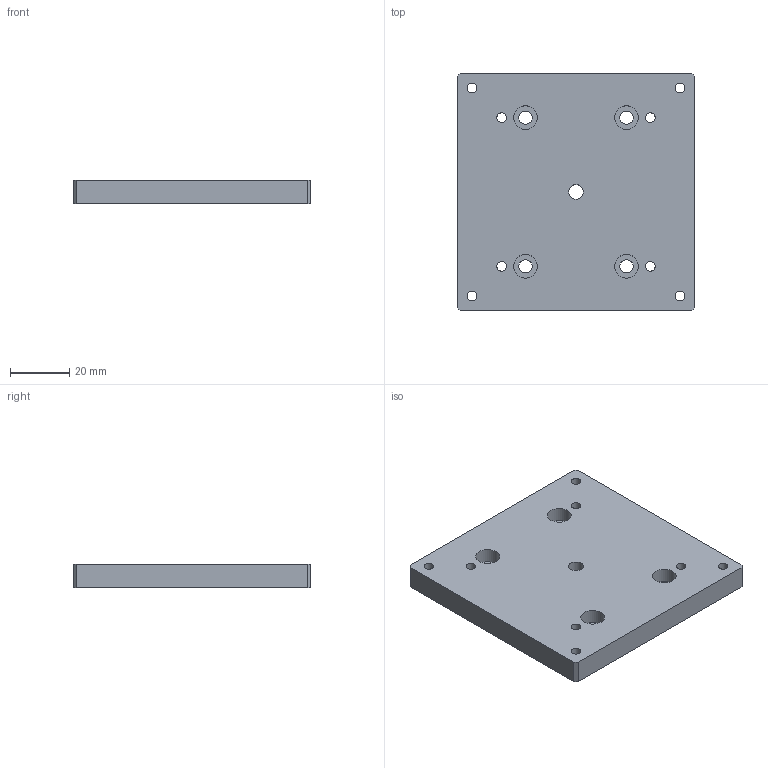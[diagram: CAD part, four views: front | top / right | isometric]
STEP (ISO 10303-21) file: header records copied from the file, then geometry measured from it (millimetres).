
FILE_DESCRIPTION( ( 'STEP AP203' ), '1' );
FILE_NAME( 'C:/3D-Trans/3D_A49-6N+071218.stp', '2007-12-18T05:03:25', ( ' ' ), ( ' ' ), 'XStep 1.0', ' ', ' ' );
FILE_SCHEMA( ( 'CONFIG_CONTROL_DESIGN' ) );
Length unit declared in the file: millimetre
Products named in the file (1): 1
Bounding box: 80 x 80 x 8 mm (x, y, z)
Volume: 49283.4 mm3; surface area: 16495.4 mm2
Topology: 1 solids, 1 shells, 31 faces, 79 edges, 54 vertices
Faces by surface type: cylinder 17, plane 14
Full cylindrical faces by diameter (mm): 3.3 x8, 4.5 x4, 5 x1, 8 x4
Entity records: 934 total; most frequent: DIRECTION 156, CARTESIAN_POINT 140, ORIENTED_EDGE 116, EDGE_LOOP 78, AXIS2_PLACEMENT_3D 66, EDGE_CURVE 58, VERTEX_POINT 50, FACE_OUTER_BOUND 48
